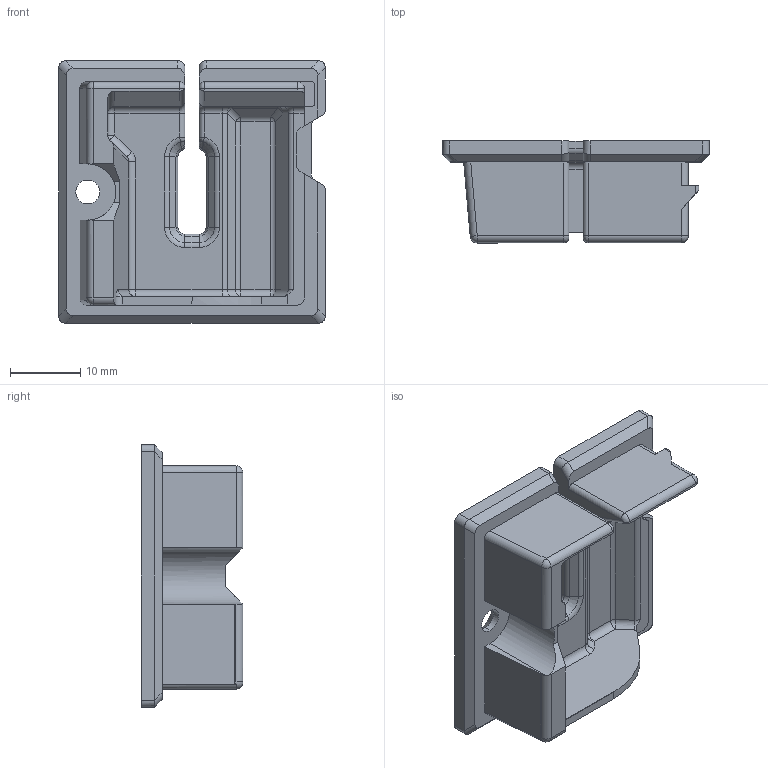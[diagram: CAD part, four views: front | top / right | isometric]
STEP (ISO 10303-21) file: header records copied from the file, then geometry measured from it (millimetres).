
FILE_DESCRIPTION (( 'STEP AP214' ), '1' );
FILE_NAME ('RYOBI BANDSAW TABLE INSERT.STEP', '2026-07-19T03:17:06', ( '' ), ( '' ), 'SwSTEP 2.0', 'SolidWorks 2026', '' );
FILE_SCHEMA (( 'AUTOMOTIVE_DESIGN' ));
Length unit declared in the file: millimetre
Products named in the file (1): RYOBI BANDSAW TABLE INSERT
Bounding box: 38 x 14.5 x 37.4 mm (x, y, z)
Volume: 6182.4 mm3; surface area: 5006.2 mm2
Topology: 1 solids, 1 shells, 285 faces, 729 edges, 449 vertices
Faces by surface type: plane 112, cylinder 89, bspline 44, torus 21, sphere 13, cone 6
Entity records: 11602 total; most frequent: CARTESIAN_POINT 5131, ORIENTED_EDGE 1444, DIRECTION 1202, EDGE_CURVE 722, VERTEX_POINT 449, AXIS2_PLACEMENT_3D 418, LINE 366, VECTOR 366
